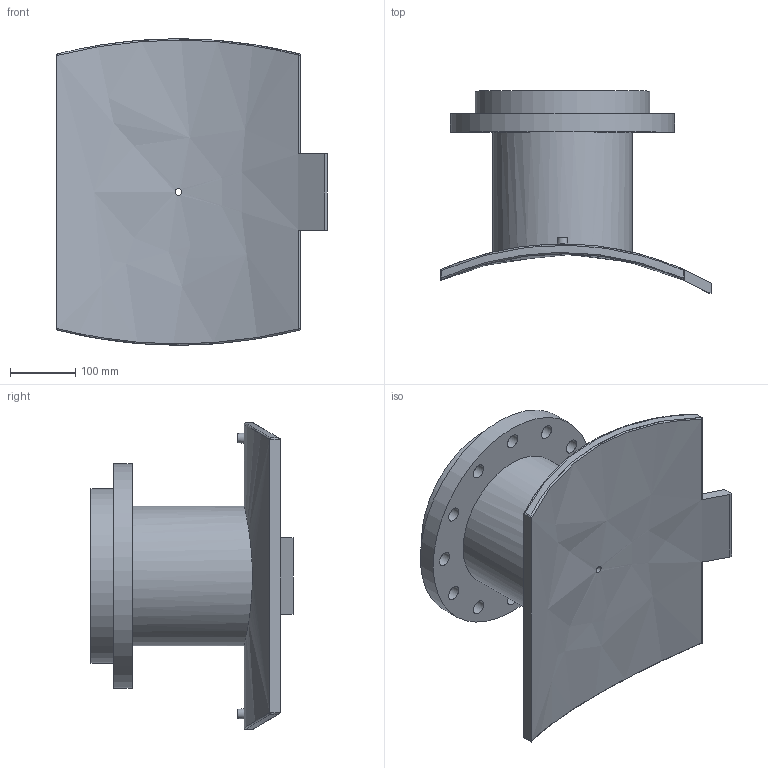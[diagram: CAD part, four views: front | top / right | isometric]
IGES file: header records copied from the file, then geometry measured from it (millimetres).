
Global section: file name: 495903900200T; native system: Autodesk Inventor 2019; preprocessor: unknown; author: KIM; date: 20240403.210254; units: millimetre
Bounding box: 415 x 309.87 x 469.93 mm (x, y, z)
Volume: 8551204.3 mm3; surface area: 831518.2 mm2
Topology: 1 solids, 1 shells, 63 faces, 166 edges, 128 vertices
Faces by surface type: bspline 63
